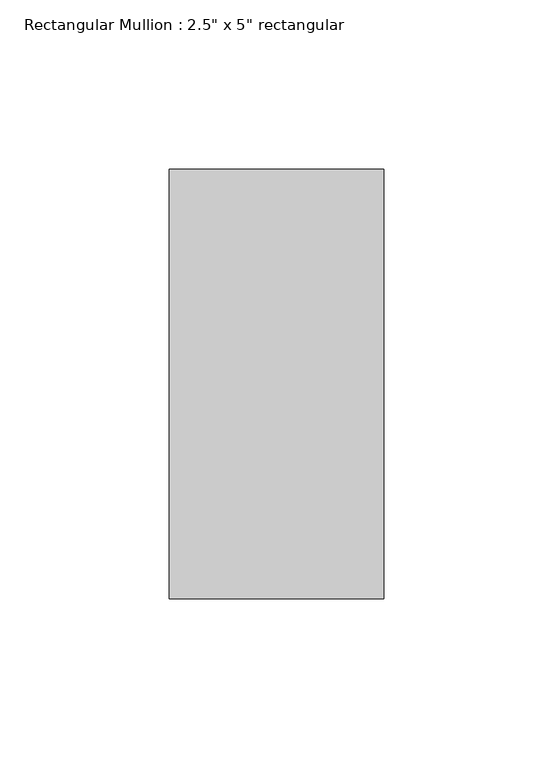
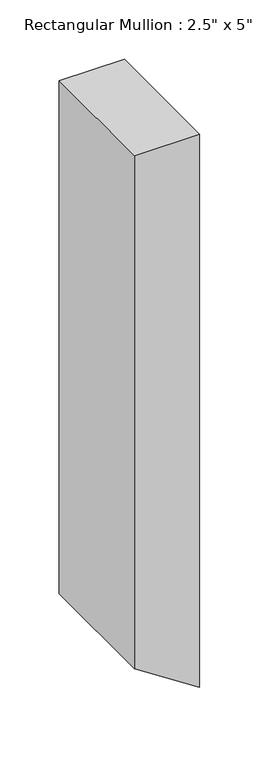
"""IFC4 building model written with IfcOpenShell, lengths in millimetres: member geometry."""

from ifc_helpers import new_model, si_unit, frame, origin, place, context, project, spatial, polyline, outline, extrude, source, transform, mapped, element, save


def member_f133ae23(model_context):
    return source(origin(), model_context, "Body", "SweptSolid", [
        extrude(outline(polyline([(0.0, 0.0), (0.0, -63.5), (-527.45894, -63.5), (-568.6242412, 0.0), (0.0, 0.0)])), frame((0.0, -63.5, 0.0), z_axis=(0.0, 1.0, 0.0), x_axis=(0.0, 0.0, 1.0)), (0.0, 0.0, 1.0), 127.0),
    ])


if __name__ == "__main__":
    model = new_model("IFC4")
    model_context = context("Model", 3, world=origin())
    ifc_project = project(units=[si_unit("LENGTHUNIT", "METRE", prefix="MILLI")], contexts=[model_context])
    site = spatial("IfcSite", under=ifc_project)
    building = spatial("IfcBuilding", under=site)
    placement = place(None, origin())
    member_shape = member_f133ae23(model_context)
    element("IfcMember", 1, ObjectType="Rectangular Mullion : 2.5\" x 5\" rectangular", at=placement, inside=building, context=model_context, shape_type="MappedRepresentation", body=[
        mapped(member_shape, transform((0.0, 0.0, 0.0), x_axis=(1.0, 0.0, 0.0), y_axis=(0.0, 1.0, 0.0), z_axis=(0.0, 0.0, 1.0))),
    ])
    save(model, "model.ifc")
